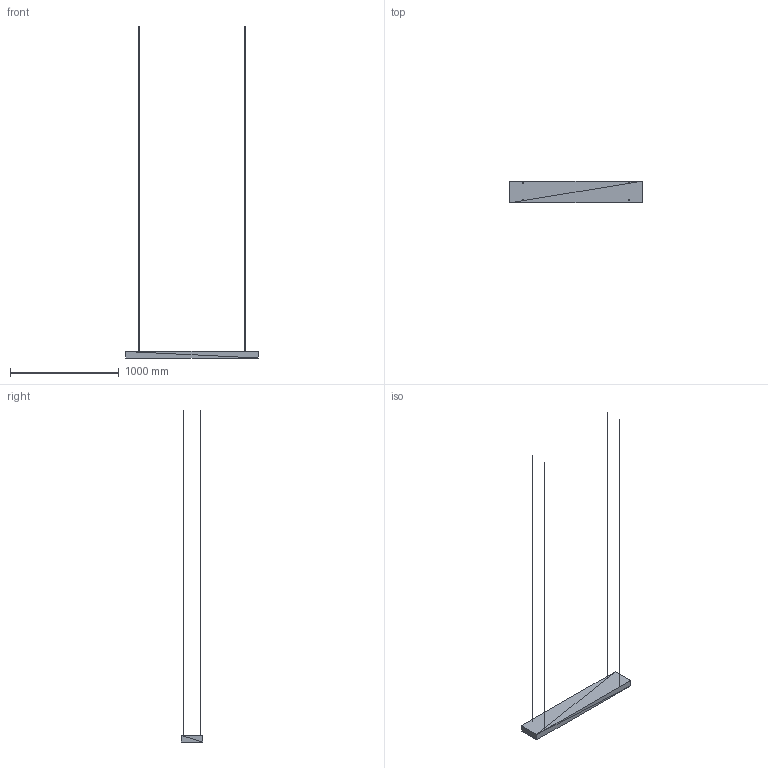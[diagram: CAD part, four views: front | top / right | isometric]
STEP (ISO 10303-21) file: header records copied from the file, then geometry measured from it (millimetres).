
FILE_DESCRIPTION(('ISINAC STEP AP214'),'2;1');
FILE_NAME('ISINAC_R.1220.200_60mm_COLGADO','2026-05-03T10:49:19',('ISINAC'),('www.isinac.com'),'ISINAC BIM Generator 1.0','','');
FILE_SCHEMA(('AUTOMOTIVE_DESIGN'));
Length unit declared in the file: millimetre
Products named in the file (1): ISINAC_R.1220.200_60mm_COLGADO
Bounding box: 1220 x 200 x 3060 mm (x, y, z)
Surface area: 766446 mm2 (no closed solid volume)
Topology: 0 solids, 92 shells, 92 faces, 276 edges, 276 vertices
Faces by surface type: plane 92
Entity records: 1025 total; most frequent: CARTESIAN_POINT 368, DIRECTION 184, POLY_LOOP 92, FACE_OUTER_BOUND 92, AXIS2_PLACEMENT_3D 92, PLANE 92, FACE_SURFACE 92, CLOSED_SHELL 1
